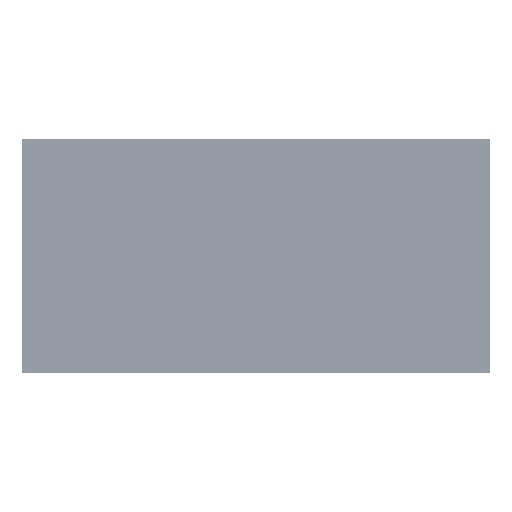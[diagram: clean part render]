
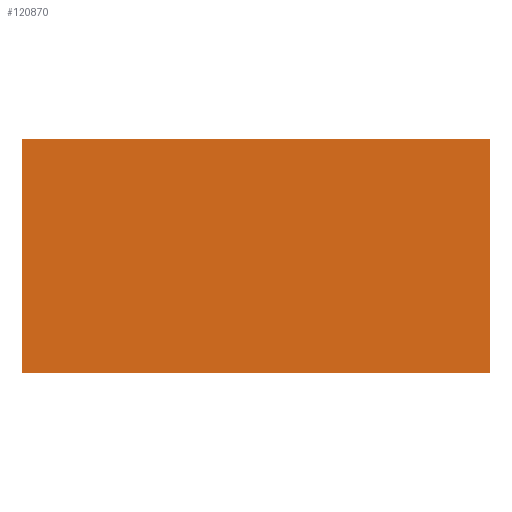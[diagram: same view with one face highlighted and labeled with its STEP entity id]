
A CAD part, front view. The second image highlights one B-rep face of the part: STEP entity #120870.
In plain terms, the highlighted planar face has unit normal (0, -1, 0).
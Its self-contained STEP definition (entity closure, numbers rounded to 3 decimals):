
#3008 = CARTESIAN_POINT ( 'NONE',  ( 0., 0., 500. ) ) ;
#3012 = CARTESIAN_POINT ( 'NONE',  ( 0., 0., -500. ) ) ;
#8593 = VECTOR ( 'NONE', #12065, 1000. ) ;
#8737 = VECTOR ( 'NONE', #12080, 1000. ) ;
#8749 = VECTOR ( 'NONE', #12096, 1000. ) ;
#8758 = VECTOR ( 'NONE', #12115, 1000. ) ;
#12052 = LINE ( 'NONE', #12061, #8593 ) ;
#12061 = CARTESIAN_POINT ( 'NONE',  ( -2000., 0., -500. ) ) ;
#12065 = DIRECTION ( 'NONE',  ( 0., 0., 1. ) ) ;
#12078 = LINE ( 'NONE', #12079, #8737 ) ;
#12079 = CARTESIAN_POINT ( 'NONE',  ( -2000., 0., 500. ) ) ;
#12080 = DIRECTION ( 'NONE',  ( 1., 0., 0. ) ) ;
#12093 = LINE ( 'NONE', #12095, #8749 ) ;
#12095 = CARTESIAN_POINT ( 'NONE',  ( 0., 0., -500. ) ) ;
#12096 = DIRECTION ( 'NONE',  ( 0., 0., -1. ) ) ;
#12110 = LINE ( 'NONE', #12113, #8758 ) ;
#12113 = CARTESIAN_POINT ( 'NONE',  ( -2000., 0., -500. ) ) ;
#12115 = DIRECTION ( 'NONE',  ( -1., 0., 0. ) ) ;
#59525 = EDGE_LOOP ( 'NONE', ( #134273, #134280, #134288, #134296 ) ) ;
#64328 = AXIS2_PLACEMENT_3D ( 'NONE', #84736, #84748, #84750 ) ;
#84732 = PLANE ( 'NONE',  #64328 ) ;
#84736 = CARTESIAN_POINT ( 'NONE',  ( -2000., 0., 500. ) ) ;
#84744 = FACE_OUTER_BOUND ( 'NONE', #59525, .T. ) ;
#84748 = DIRECTION ( 'NONE',  ( 0., 1., 0. ) ) ;
#84750 = DIRECTION ( 'NONE',  ( 0., 0., 1. ) ) ;
#105894 = EDGE_CURVE ( 'NONE', #218115, #218131, #12052, .T. ) ;
#105902 = EDGE_CURVE ( 'NONE', #218131, #181346, #12078, .T. ) ;
#105908 = EDGE_CURVE ( 'NONE', #181346, #181359, #12093, .T. ) ;
#105916 = EDGE_CURVE ( 'NONE', #181359, #218115, #12110, .T. ) ;
#120870 = ADVANCED_FACE ( 'NONE', ( #84744 ), #84732, .F. ) ;
#134273 = ORIENTED_EDGE ( 'NONE', *, *, #105894, .F. ) ;
#134280 = ORIENTED_EDGE ( 'NONE', *, *, #105916, .F. ) ;
#134288 = ORIENTED_EDGE ( 'NONE', *, *, #105908, .F. ) ;
#134296 = ORIENTED_EDGE ( 'NONE', *, *, #105902, .F. ) ;
#148918 = CARTESIAN_POINT ( 'NONE',  ( -2000., 0., -500. ) ) ;
#148940 = CARTESIAN_POINT ( 'NONE',  ( -2000., 0., 500. ) ) ;
#181346 = VERTEX_POINT ( 'NONE', #3008 ) ;
#181359 = VERTEX_POINT ( 'NONE', #3012 ) ;
#218115 = VERTEX_POINT ( 'NONE', #148918 ) ;
#218131 = VERTEX_POINT ( 'NONE', #148940 ) ;
